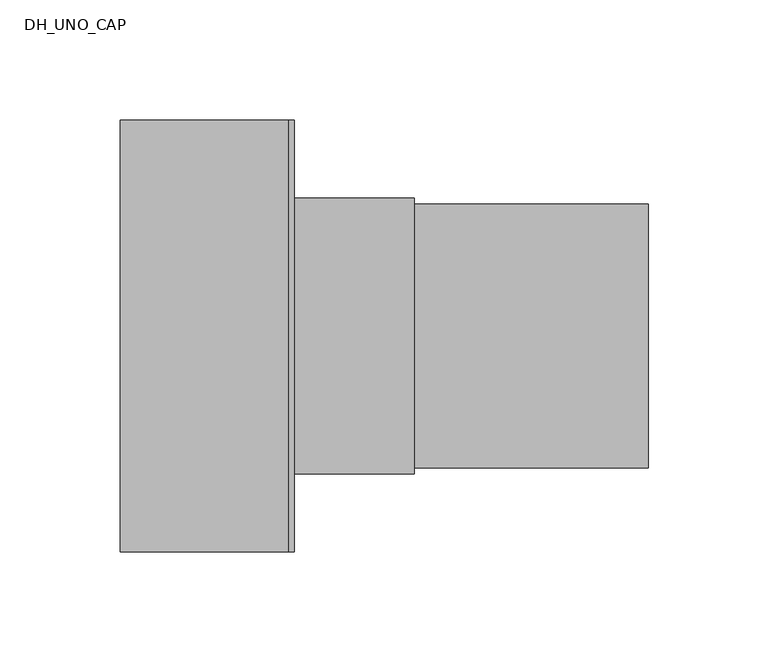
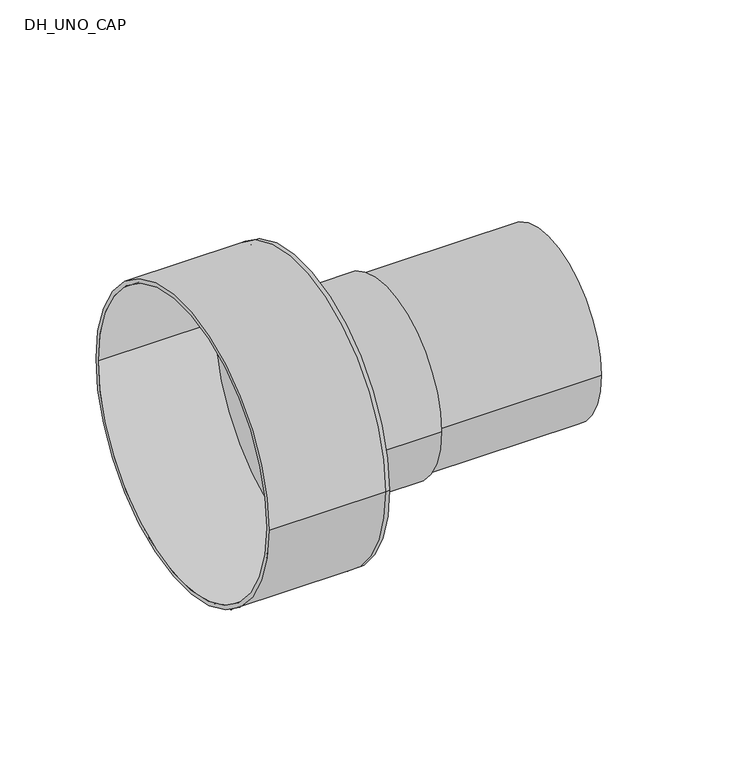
"""IFC4 building model written with IfcOpenShell, lengths in millimetres: pipe fitting geometry, DH_UNO_CAP : RAUVIPEX UNO + 11 Heating - Rubber Cap."""

from ifc_helpers import new_model, si_unit, point, frame, origin, origin_2d, place, context, project, spatial, polyline, circle_curve, trimmed, segment, composite_curve, outline, extrude, source, transform, mapped, element, save
from ifc_brep_helpers import plane_surface, cylinder_surface, revolved_surface, advanced_brep


def dh_uno_cap_d7909df6(model_context):
    return source(origin(), model_context, "Body", "SolidModel", [
        extrude(outline(composite_curve([segment(trimmed(circle_curve(origin_2d(), 55.0), [point((-55.0, 0.0))], [point((55.0, 0.0))], False, "CARTESIAN"), True, "CONTINUOUS"), segment(trimmed(circle_curve(origin_2d(), 55.0), [point((55.0, 0.0))], [point((-55.0, 0.0))], False, "CARTESIAN"), True, "CONTINUOUS")], self_intersect=False), holes=[composite_curve([segment(trimmed(circle_curve(origin_2d(), 45.0), [point((-45.0, 0.0))], [point((45.0, 0.0))], True, "CARTESIAN"), True, "CONTINUOUS"), segment(trimmed(circle_curve(origin_2d(), 45.0), [point((45.0, 0.0))], [point((-45.0, 0.0))], True, "CARTESIAN"), True, "CONTINUOUS")], self_intersect=False)]), frame((0.0, 0.0, 0.0), z_axis=(1.0, 0.0, 0.0), x_axis=(0.0, 1.0, 0.0)), (0.0, 0.0, 1.0), 150.0),
        advanced_brep(
        [(-70.0, -90.0, 0.0), (-70.0, 90.0, 0.0), (-70.0, -87.5, 0.0), (-70.0, 87.5, 0.0), (0.0, -87.5, 0.0), (0.0, 87.5, 0.0), (0.0, -90.0, 0.0), (0.0, 90.0, 0.0), (0.0, 55.0, 0.0), (0.0, -55.0, 0.0), (2.5, -90.0, 0.0), (2.5, 90.0, 0.0), (2.5, -55.0, 0.0), (2.5, 55.0, 0.0)],
        [
            (0, 1, circle_curve(frame((-70.0, 0.0, 0.0), z_axis=(-1.0, 0.0, 0.0), x_axis=(0.0, 1.0, 0.0)), 90.0)),
            (1, 0, circle_curve(frame((-70.0, 0.0, 0.0), z_axis=(-1.0, 0.0, 0.0), x_axis=(0.0, 1.0, 0.0)), 90.0)),
            (2, 3, circle_curve(frame((-70.0, 0.0, 0.0), z_axis=(1.0, 0.0, 0.0), x_axis=(0.0, 1.0, 0.0)), 87.5)),
            (3, 2, circle_curve(frame((-70.0, 0.0, 0.0), z_axis=(1.0, 0.0, 0.0), x_axis=(0.0, 1.0, 0.0)), 87.5)),
            (2, 4),
            (4, 5, circle_curve(frame((0.0, 0.0, 0.0), z_axis=(1.0, 0.0, 0.0), x_axis=(0.0, 1.0, 0.0)), 87.5)),
            (5, 3),
            (5, 4, circle_curve(frame((0.0, 0.0, 0.0), z_axis=(1.0, 0.0, 0.0), x_axis=(0.0, 1.0, 0.0)), 87.5)),
            (0, 6),
            (6, 7, circle_curve(frame((0.0, 0.0, 0.0), z_axis=(-1.0, 0.0, 0.0), x_axis=(0.0, 1.0, 0.0)), 90.0)),
            (7, 1),
            (7, 6, circle_curve(frame((0.0, 0.0, 0.0), z_axis=(-1.0, 0.0, 0.0), x_axis=(0.0, 1.0, 0.0)), 90.0)),
            (8, 9, circle_curve(frame((0.0, 0.0, 0.0), z_axis=(1.0, 0.0, 0.0), x_axis=(0.0, 1.0, 0.0)), 55.0)),
            (9, 8, circle_curve(frame((0.0, 0.0, 0.0), z_axis=(1.0, 0.0, 0.0), x_axis=(0.0, 1.0, 0.0)), 55.0)),
            (10, 11, circle_curve(frame((2.5, 0.0, 0.0), z_axis=(1.0, 0.0, 0.0), x_axis=(0.0, 1.0, 0.0)), 90.0)),
            (11, 10, circle_curve(frame((2.5, 0.0, 0.0), z_axis=(1.0, 0.0, 0.0), x_axis=(0.0, 1.0, 0.0)), 90.0)),
            (12, 13, circle_curve(frame((2.5, 0.0, 0.0), z_axis=(-1.0, 0.0, 0.0), x_axis=(0.0, 1.0, 0.0)), 55.0)),
            (13, 12, circle_curve(frame((2.5, 0.0, 0.0), z_axis=(-1.0, 0.0, 0.0), x_axis=(0.0, 1.0, 0.0)), 55.0)),
            (11, 7),
            (6, 10),
            (8, 13),
            (12, 9),
        ],
        [
            plane_surface(frame((-70.0, 0.0, 0.0), z_axis=(-1.0, 0.0, 0.0), x_axis=(0.0, 0.0, 1.0))),
            revolved_surface(polyline([(0.0, 87.5, 0.0), (-70.0, 87.5, 0.0)]), (-70.0, 0.0, 0.0), (1.0, 0.0, 0.0)),
            cylinder_surface(frame((-70.0, 0.0, 0.0), z_axis=(-1.0, 0.0, 0.0), x_axis=(0.0, 1.0, 0.0)), 90.0),
            plane_surface(frame((0.0, 0.0, 0.0), z_axis=(-1.0, 0.0, 0.0), x_axis=(0.0, 0.0, 1.0))),
            plane_surface(frame((2.5, 0.0, 0.0), z_axis=(1.0, 0.0, 0.0), x_axis=(0.0, 0.0, 1.0))),
            cylinder_surface(frame((0.0, 0.0, 0.0), z_axis=(-1.0, 0.0, 0.0), x_axis=(0.0, 1.0, 0.0)), 90.0),
            revolved_surface(polyline([(0.0, 55.0, 0.0), (2.5, 55.0, 0.0)]), (0.0, 0.0, 0.0), (-1.0, 0.0, 0.0)),
        ],
        [
            (0, [[1, 2], [3, 4]]),
            (1, [[-3, 5, 6, 7]]),
            (1, [[-4, -7, 8, -5]]),
            (2, [[-1, 9, 10, 11]]),
            (2, [[-2, -11, 12, -9]]),
            (3, [[-6, -8], [13, 14]]),
            (4, [[15, 16], [17, 18]]),
            (5, [[-16, 19, -10, 20]]),
            (5, [[-15, -20, -12, -19]]),
            (6, [[21, -17, 22, -13]]),
            (6, [[-21, -14, -22, -18]]),
        ],
    ),
        extrude(outline(composite_curve([segment(trimmed(circle_curve(origin_2d(), 57.5), [point((-57.5, 0.0))], [point((57.5, 0.0))], False, "CARTESIAN"), True, "CONTINUOUS"), segment(trimmed(circle_curve(origin_2d(), 57.5), [point((57.5, 0.0))], [point((-57.5, 0.0))], False, "CARTESIAN"), True, "CONTINUOUS")], self_intersect=False), holes=[composite_curve([segment(trimmed(circle_curve(origin_2d(), 55.0), [point((-55.0, 0.0))], [point((55.0, 0.0))], True, "CARTESIAN"), True, "CONTINUOUS"), segment(trimmed(circle_curve(origin_2d(), 55.0), [point((55.0, 0.0))], [point((-55.0, 0.0))], True, "CARTESIAN"), True, "CONTINUOUS")], self_intersect=False)]), frame((2.5, 0.0, 0.0), z_axis=(1.0, 0.0, 0.0), x_axis=(0.0, 1.0, 0.0)), (0.0, 0.0, 1.0), 50.0),
    ])


if __name__ == "__main__":
    model = new_model("IFC4")
    model_context = context("Model", 3, world=origin())
    ifc_project = project(units=[si_unit("LENGTHUNIT", "METRE", prefix="MILLI")], contexts=[model_context])
    site = spatial("IfcSite", under=ifc_project)
    building = spatial("IfcBuilding", under=site)
    placement = place(None, origin())
    dh_uno_cap_shape = dh_uno_cap_d7909df6(model_context)
    element("IfcPipeFitting", 1, ObjectType="DH_UNO_CAP : RAUVIPEX UNO + 11 Heating - Rubber Cap", at=placement, inside=building, context=model_context, shape_type="MappedRepresentation", body=[
        mapped(dh_uno_cap_shape, transform((0.0, 0.0, 0.0), x_axis=(1.0, 0.0, 0.0), y_axis=(0.0, 1.0, 0.0), z_axis=(0.0, 0.0, 1.0))),
    ])
    save(model, "model.ifc")
